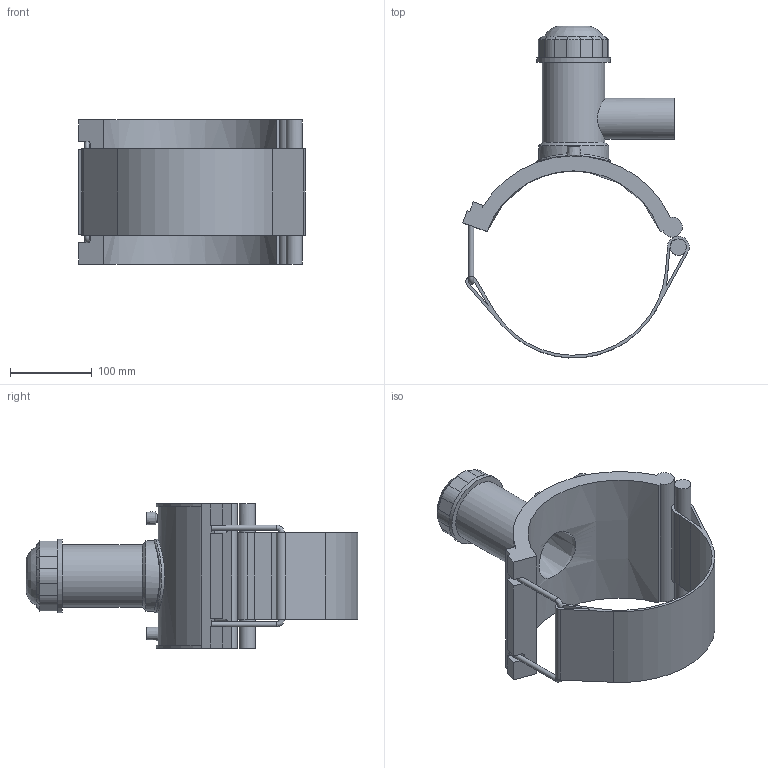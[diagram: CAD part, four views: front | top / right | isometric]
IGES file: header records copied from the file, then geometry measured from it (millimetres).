
Global section: file name: 496304225050.ipt; native system: Autodesk Inventor 2015; preprocessor: unknown; author: KIM; date: 20190124.131224; units: millimetre
Bounding box: 276.37 x 405.2 x 176 mm (x, y, z)
Volume: 1628113.3 mm3; surface area: 350364.7 mm2
Topology: 2 solids, 2 shells, 121 faces, 301 edges, 191 vertices
Faces by surface type: plane 68, cylinder 29, revolution 12, cone 11, bspline 1
Full cylindrical faces by diameter (mm): 4 x2, 6.3 x2, 19.904 x1, 50 x1, 76.5 x1, 85.5 x1, 90 x2
